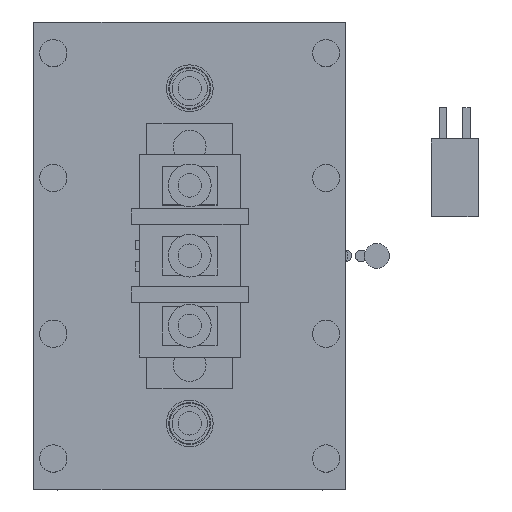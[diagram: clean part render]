
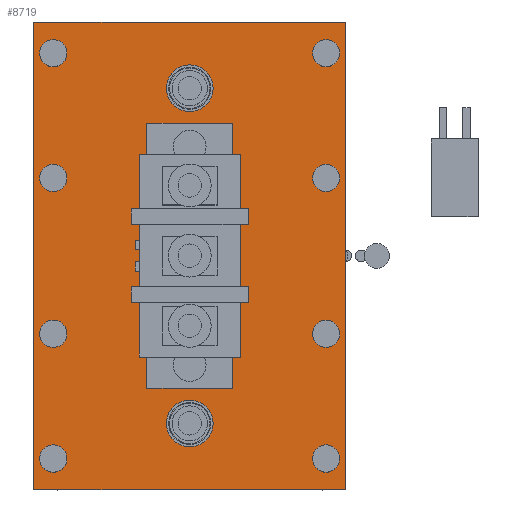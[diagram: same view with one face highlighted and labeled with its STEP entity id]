
A CAD part, top view. The second image highlights one B-rep face of the part: STEP entity #8719.
In plain terms, the highlighted planar face has unit normal (0, 0, 1).
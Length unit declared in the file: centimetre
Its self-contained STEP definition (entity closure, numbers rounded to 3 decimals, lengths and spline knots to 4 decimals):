
#244=FACE_BOUND('',#1654,.T.);
#245=FACE_BOUND('',#1655,.T.);
#246=FACE_BOUND('',#1656,.T.);
#247=FACE_BOUND('',#1657,.T.);
#248=FACE_BOUND('',#1658,.T.);
#249=FACE_BOUND('',#1659,.T.);
#250=FACE_BOUND('',#1660,.T.);
#251=FACE_BOUND('',#1661,.T.);
#252=FACE_BOUND('',#1662,.T.);
#253=FACE_BOUND('',#1663,.T.);
#254=FACE_BOUND('',#1664,.T.);
#255=FACE_BOUND('',#1665,.T.);
#598=PLANE('',#9533);
#1060=FACE_OUTER_BOUND('',#1653,.T.);
#1653=EDGE_LOOP('',(#7424,#7425,#7426,#7427));
#1654=EDGE_LOOP('',(#7428));
#1655=EDGE_LOOP('',(#7429));
#1656=EDGE_LOOP('',(#7430));
#1657=EDGE_LOOP('',(#7431));
#1658=EDGE_LOOP('',(#7432));
#1659=EDGE_LOOP('',(#7433));
#1660=EDGE_LOOP('',(#7434));
#1661=EDGE_LOOP('',(#7435));
#1662=EDGE_LOOP('',(#7436));
#1663=EDGE_LOOP('',(#7437));
#1664=EDGE_LOOP('',(#7438));
#1665=EDGE_LOOP('',(#7439));
#2659=LINE('',#13948,#3609);
#2661=LINE('',#13952,#3611);
#2663=LINE('',#13956,#3613);
#2665=LINE('',#13959,#3615);
#3609=VECTOR('',#11285,1.);
#3611=VECTOR('',#11289,1.);
#3613=VECTOR('',#11293,1.);
#3615=VECTOR('',#11297,1.);
#3906=CIRCLE('',#9214,0.21);
#3908=CIRCLE('',#9218,0.21);
#3912=CIRCLE('',#9227,0.22);
#3916=CIRCLE('',#9232,0.22);
#3920=CIRCLE('',#9237,0.22);
#3924=CIRCLE('',#9242,0.22);
#3928=CIRCLE('',#9247,0.22);
#3932=CIRCLE('',#9252,0.22);
#3936=CIRCLE('',#9257,0.22);
#3940=CIRCLE('',#9262,0.22);
#3944=CIRCLE('',#9277,0.3);
#3946=CIRCLE('',#9280,0.3);
#4112=VERTEX_POINT('',#12513);
#4114=VERTEX_POINT('',#12520);
#4120=VERTEX_POINT('',#12540);
#4126=VERTEX_POINT('',#12554);
#4132=VERTEX_POINT('',#12568);
#4138=VERTEX_POINT('',#12582);
#4144=VERTEX_POINT('',#12596);
#4150=VERTEX_POINT('',#12610);
#4156=VERTEX_POINT('',#12624);
#4162=VERTEX_POINT('',#12638);
#4180=VERTEX_POINT('',#12703);
#4182=VERTEX_POINT('',#12709);
#4576=VERTEX_POINT('',#13945);
#4577=VERTEX_POINT('',#13947);
#4578=VERTEX_POINT('',#13951);
#4579=VERTEX_POINT('',#13955);
#4880=EDGE_CURVE('',#4112,#4112,#3906,.T.);
#4883=EDGE_CURVE('',#4114,#4114,#3908,.T.);
#4892=EDGE_CURVE('',#4120,#4120,#3912,.T.);
#4899=EDGE_CURVE('',#4126,#4126,#3916,.T.);
#4906=EDGE_CURVE('',#4132,#4132,#3920,.T.);
#4913=EDGE_CURVE('',#4138,#4138,#3924,.T.);
#4920=EDGE_CURVE('',#4144,#4144,#3928,.T.);
#4927=EDGE_CURVE('',#4150,#4150,#3932,.T.);
#4934=EDGE_CURVE('',#4156,#4156,#3936,.T.);
#4941=EDGE_CURVE('',#4162,#4162,#3940,.T.);
#4977=EDGE_CURVE('',#4180,#4180,#3944,.T.);
#4980=EDGE_CURVE('',#4182,#4182,#3946,.T.);
#5575=EDGE_CURVE('',#4577,#4576,#2659,.T.);
#5577=EDGE_CURVE('',#4578,#4577,#2661,.T.);
#5579=EDGE_CURVE('',#4579,#4578,#2663,.T.);
#5581=EDGE_CURVE('',#4576,#4579,#2665,.T.);
#7424=ORIENTED_EDGE('',*,*,#5581,.T.);
#7425=ORIENTED_EDGE('',*,*,#5579,.T.);
#7426=ORIENTED_EDGE('',*,*,#5577,.T.);
#7427=ORIENTED_EDGE('',*,*,#5575,.T.);
#7428=ORIENTED_EDGE('',*,*,#4892,.T.);
#7429=ORIENTED_EDGE('',*,*,#4899,.T.);
#7430=ORIENTED_EDGE('',*,*,#4906,.T.);
#7431=ORIENTED_EDGE('',*,*,#4913,.T.);
#7432=ORIENTED_EDGE('',*,*,#4920,.T.);
#7433=ORIENTED_EDGE('',*,*,#4927,.T.);
#7434=ORIENTED_EDGE('',*,*,#4934,.T.);
#7435=ORIENTED_EDGE('',*,*,#4941,.T.);
#7436=ORIENTED_EDGE('',*,*,#4977,.T.);
#7437=ORIENTED_EDGE('',*,*,#4980,.T.);
#7438=ORIENTED_EDGE('',*,*,#4883,.T.);
#7439=ORIENTED_EDGE('',*,*,#4880,.T.);
#8719=ADVANCED_FACE('',(#1060,#244,#245,#246,#247,#248,#249,#250,#251,#252,
#253,#254,#255),#598,.T.);
#9214=AXIS2_PLACEMENT_3D('',#12514,#10000,#10001);
#9218=AXIS2_PLACEMENT_3D('',#12521,#10009,#10010);
#9227=AXIS2_PLACEMENT_3D('',#12541,#10032,#10033);
#9232=AXIS2_PLACEMENT_3D('',#12555,#10045,#10046);
#9237=AXIS2_PLACEMENT_3D('',#12569,#10058,#10059);
#9242=AXIS2_PLACEMENT_3D('',#12583,#10071,#10072);
#9247=AXIS2_PLACEMENT_3D('',#12597,#10084,#10085);
#9252=AXIS2_PLACEMENT_3D('',#12611,#10097,#10098);
#9257=AXIS2_PLACEMENT_3D('',#12625,#10110,#10111);
#9262=AXIS2_PLACEMENT_3D('',#12639,#10123,#10124);
#9277=AXIS2_PLACEMENT_3D('',#12704,#10185,#10186);
#9280=AXIS2_PLACEMENT_3D('',#12710,#10192,#10193);
#9533=AXIS2_PLACEMENT_3D('',#13960,#11298,#11299);
#10000=DIRECTION('center_axis',(0.,0.,-1.));
#10001=DIRECTION('ref_axis',(1.,0.,0.));
#10009=DIRECTION('center_axis',(0.,0.,-1.));
#10010=DIRECTION('ref_axis',(1.,0.,0.));
#10032=DIRECTION('center_axis',(0.,0.,-1.));
#10033=DIRECTION('ref_axis',(1.,0.,0.));
#10045=DIRECTION('center_axis',(0.,0.,-1.));
#10046=DIRECTION('ref_axis',(1.,0.,0.));
#10058=DIRECTION('center_axis',(0.,0.,-1.));
#10059=DIRECTION('ref_axis',(1.,0.,0.));
#10071=DIRECTION('center_axis',(0.,0.,-1.));
#10072=DIRECTION('ref_axis',(1.,0.,0.));
#10084=DIRECTION('center_axis',(0.,0.,-1.));
#10085=DIRECTION('ref_axis',(1.,0.,0.));
#10097=DIRECTION('center_axis',(0.,0.,-1.));
#10098=DIRECTION('ref_axis',(1.,0.,0.));
#10110=DIRECTION('center_axis',(0.,0.,-1.));
#10111=DIRECTION('ref_axis',(1.,0.,0.));
#10123=DIRECTION('center_axis',(0.,0.,-1.));
#10124=DIRECTION('ref_axis',(1.,0.,0.));
#10185=DIRECTION('center_axis',(0.,0.,-1.));
#10186=DIRECTION('ref_axis',(1.,0.,0.));
#10192=DIRECTION('center_axis',(0.,0.,-1.));
#10193=DIRECTION('ref_axis',(1.,0.,0.));
#11285=DIRECTION('',(-1.,0.,0.));
#11289=DIRECTION('',(0.,1.,0.));
#11293=DIRECTION('',(1.,0.,0.));
#11297=DIRECTION('',(0.,-1.,0.));
#11298=DIRECTION('center_axis',(0.,0.,1.));
#11299=DIRECTION('ref_axis',(1.,0.,0.));
#12513=CARTESIAN_POINT('',(3.79,3.2,1.2));
#12514=CARTESIAN_POINT('Origin',(4.,3.2,1.2));
#12520=CARTESIAN_POINT('',(3.79,8.8,1.2));
#12521=CARTESIAN_POINT('Origin',(4.,8.8,1.2));
#12540=CARTESIAN_POINT('',(0.28,11.2,1.2));
#12541=CARTESIAN_POINT('Origin',(0.5,11.2,1.2));
#12554=CARTESIAN_POINT('',(0.28,8.,1.2));
#12555=CARTESIAN_POINT('Origin',(0.5,8.,1.2));
#12568=CARTESIAN_POINT('',(7.28,4.,1.2));
#12569=CARTESIAN_POINT('Origin',(7.5,4.,1.2));
#12582=CARTESIAN_POINT('',(7.28,0.8,1.2));
#12583=CARTESIAN_POINT('Origin',(7.5,0.8,1.2));
#12596=CARTESIAN_POINT('',(0.28,4.,1.2));
#12597=CARTESIAN_POINT('Origin',(0.5,4.,1.2));
#12610=CARTESIAN_POINT('',(0.28,0.8,1.2));
#12611=CARTESIAN_POINT('Origin',(0.5,0.8,1.2));
#12624=CARTESIAN_POINT('',(7.28,8.,1.2));
#12625=CARTESIAN_POINT('Origin',(7.5,8.,1.2));
#12638=CARTESIAN_POINT('',(7.28,11.2,1.2));
#12639=CARTESIAN_POINT('Origin',(7.5,11.2,1.2));
#12703=CARTESIAN_POINT('',(3.7,1.7,1.2));
#12704=CARTESIAN_POINT('Origin',(4.,1.7,1.2));
#12709=CARTESIAN_POINT('',(3.7,10.3,1.2));
#12710=CARTESIAN_POINT('Origin',(4.,10.3,1.2));
#13945=CARTESIAN_POINT('',(0.,12.,1.2));
#13947=CARTESIAN_POINT('',(8.,12.,1.2));
#13948=CARTESIAN_POINT('',(8.,12.,1.2));
#13951=CARTESIAN_POINT('',(8.,0.,1.2));
#13952=CARTESIAN_POINT('',(8.,0.,1.2));
#13955=CARTESIAN_POINT('',(0.,0.,1.2));
#13956=CARTESIAN_POINT('',(0.,0.,1.2));
#13959=CARTESIAN_POINT('',(0.,12.,1.2));
#13960=CARTESIAN_POINT('Origin',(4.,6.,1.2));
